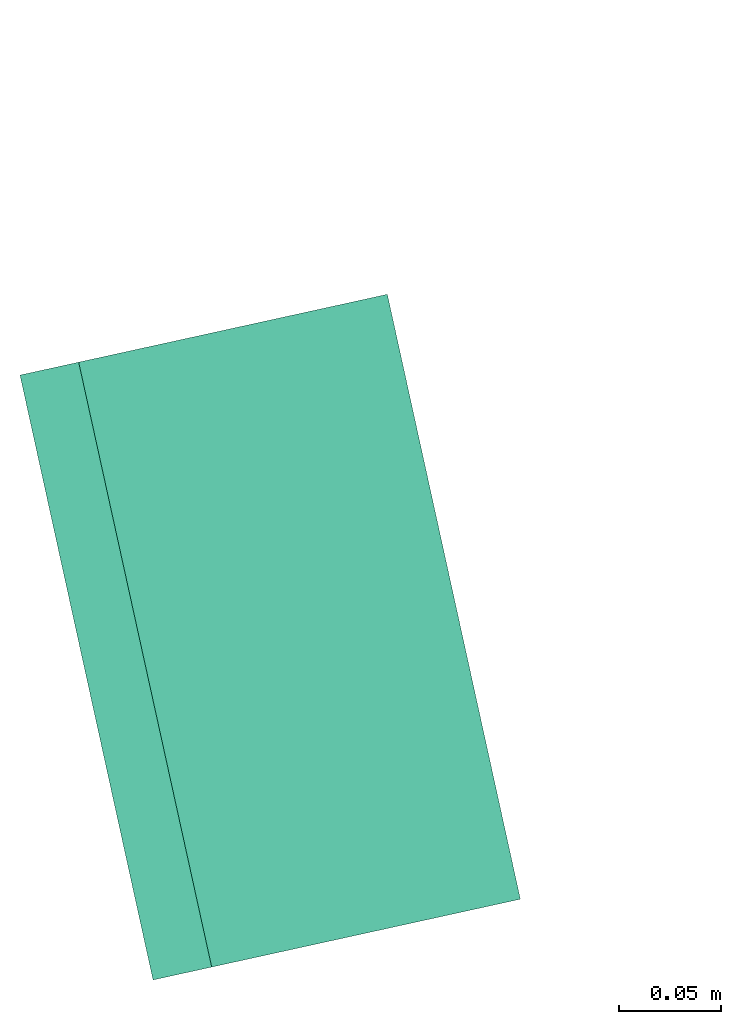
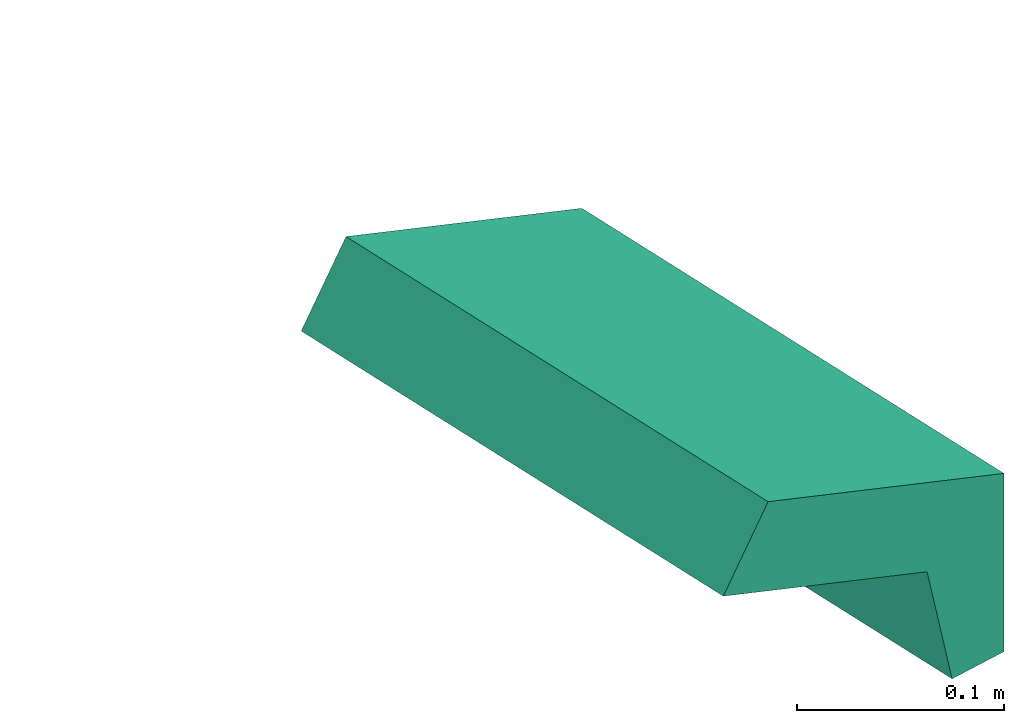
# One storey, part 1 of 2: 1 flow terminal.
"""IFC2X3 building model written with IfcOpenShell, lengths in millimetres."""

from ifc_helpers import new_model, entity, si_unit, converted_unit, derived_unit, direction, frame, origin, origin_with_axes, place, context, subcontext, project, spatial, open_shell, surface_model, source, transform, mapped, type_object, element, save


model = new_model("IFC2X3")

# Units and contexts
plan_context = context("Plan", 3, precision=1e-05, world=origin_with_axes())
model_context = context("Model", 3, precision=0.01, world=origin(), true_north=direction((6.12323399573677e-17, 1.0)))
body_context = subcontext(model_context, "Body", "Model", "MODEL_VIEW")
ifc_project = project(units=[converted_unit("PLANEANGLEUNIT", "DEGREE", entity("IfcPositiveLengthMeasure", 0.0174532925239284), si_unit("PLANEANGLEUNIT", "RADIAN"), dimensions=[0, 0, 0, 0, 0, 0, 0]), si_unit("AREAUNIT", "SQUARE_METRE"), si_unit("LENGTHUNIT", "METRE", prefix="MILLI"), si_unit("MASSUNIT", "GRAM", prefix="KILO"), si_unit("POWERUNIT", "WATT"), si_unit("PRESSUREUNIT", "PASCAL", prefix="KILO"), si_unit("FORCEUNIT", "NEWTON", prefix="KILO"), si_unit("ELECTRICVOLTAGEUNIT", "VOLT"), si_unit("ELECTRICCURRENTUNIT", "AMPERE"), si_unit("THERMODYNAMICTEMPERATUREUNIT", "DEGREE_CELSIUS"), si_unit("TIMEUNIT", "SECOND"), si_unit("VOLUMEUNIT", "CUBIC_METRE"), derived_unit("LINEARVELOCITYUNIT", [(si_unit("LENGTHUNIT", "METRE"), 1), (si_unit("TIMEUNIT", "SECOND"), -1)]), derived_unit("VOLUMETRICFLOWRATEUNIT", [(si_unit("VOLUMEUNIT", "CUBIC_METRE"), 1), (si_unit("TIMEUNIT", "SECOND"), -1)]), derived_unit("THERMALTRANSMITTANCEUNIT", [(si_unit("POWERUNIT", "WATT"), 1), (si_unit("THERMODYNAMICTEMPERATUREUNIT", "KELVIN"), -1), (si_unit("AREAUNIT", "SQUARE_METRE"), -1)]), derived_unit("SOUNDPRESSUREUNIT", [(si_unit("PRESSUREUNIT", "PASCAL"), 1)])], contexts=[model_context, plan_context])

# Site, building, storey
site_placement = place(None, frame((0.0, 0.0, 0.0), z_axis=(0.0, 0.0, 1.0), x_axis=(0.214788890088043, -0.97666050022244, 0.0)))
site = spatial("IfcSite", under=ifc_project, at=site_placement, CompositionType="ELEMENT")
building_placement = place(site_placement, origin_with_axes())
building = spatial("IfcBuilding", under=site, at=building_placement, Name="mc-building", CompositionType="ELEMENT")
storey_placement = place(building_placement, frame((0.0, 0.0, 5100.0), z_axis=(0.0, 0.0, 1.0), x_axis=(1.0, 0.0, 0.0)))
storey = spatial("IfcBuildingStorey", under=building, at=storey_placement, Name="Plan 01", CompositionType="ELEMENT", Elevation=5100.0)

# Flow terminal
light_fixture_type = type_object("IfcLightFixtureType", Name="Schneider Outdoor Wall IP65", PredefinedType="NOTDEFINED")
shared_shape = source(origin_with_axes(), body_context, "Body", "SurfaceModel", [
    surface_model("IfcShellBasedSurfaceModel", [(151.5, 184.0, 66.97873), (151.5, 154.61162, 108.94969), (151.5, 50.42326, 18.36078), (151.5, 0.0, 52.67566), (151.5, 0.0, -52.67566), (151.5, 34.02321, -52.67566), (-151.5, 0.0, -52.67566), (-151.5, 50.42326, 18.36078), (-151.5, 34.02321, -52.67566), (-151.5, 0.0, 52.67566), (-151.5, 154.61162, 108.94969), (-151.5, 184.0, 66.97873), (-99.03553, 7.0, -12.03553), (-95.5, 7.0, -13.5), (-96.79409, 7.0, -13.32963), (-98.0, 7.0, -12.83013), (-100.32963, 7.0, -9.79409), (-100.5, 7.0, -8.5), (-99.83013, 7.0, -11.0), (95.5, 7.0, 13.5), (95.5, 7.0, -13.5), (96.79409, 7.0, -13.32963), (99.83013, 7.0, -11.0), (98.0, 7.0, -12.83013), (99.03553, 7.0, -12.03553), (100.5, 7.0, -8.5), (100.32963, 7.0, -9.79409), (-95.5, 7.0, 13.5), (-100.5, 7.0, 8.5), (-100.32963, 7.0, 9.79409), (-98.0, 7.0, 12.83013), (-99.83013, 7.0, 11.0), (-96.79409, 7.0, 13.32963), (-99.03553, 7.0, 12.03553), (100.5, 7.0, 8.5), (99.83013, 7.0, 11.0), (100.32963, 7.0, 9.79409), (96.79409, 7.0, 13.32963), (98.0, 7.0, 12.83013), (99.03553, 7.0, 12.03553), (-100.32963, 5.0, 9.79409), (-95.5, 5.0, 13.5), (-96.79409, 5.0, 13.32963), (-98.0, 5.0, 12.83013), (-100.5, 5.0, 8.5), (-99.83013, 5.0, 11.0), (-99.03553, 5.0, 12.03553), (95.5, 5.0, 13.5), (95.5, 5.0, -13.5), (98.0, 5.0, 12.83013), (96.79409, 5.0, 13.32963), (99.03553, 5.0, 12.03553), (99.83013, 5.0, 11.0), (100.5, 5.0, 8.5), (100.32963, 5.0, 9.79409), (-100.5, 5.0, -8.5), (-100.32963, 5.0, -9.79409), (-99.83013, 5.0, -11.0), (-96.79409, 5.0, -13.32963), (-99.03553, 5.0, -12.03553), (-98.0, 5.0, -12.83013), (-95.5, 5.0, -13.5), (100.32963, 5.0, -9.79409), (99.83013, 5.0, -11.0), (100.5, 5.0, -8.5), (98.0, 5.0, -12.83013), (96.79409, 5.0, -13.32963), (99.03553, 5.0, -12.03553)], [open_shell([[[0, 1, 2]], [[2, 1, 3]], [[2, 4, 5]], [[4, 2, 3]], [[6, 7, 8]], [[7, 6, 9]], [[10, 11, 7]], [[10, 7, 9]], [[4, 3, 9]], [[9, 6, 4]], [[5, 4, 6]], [[6, 8, 5]], [[2, 5, 7]], [[8, 7, 5]], [[0, 2, 7]], [[7, 11, 0]], [[1, 0, 10]], [[11, 10, 0]], [[3, 1, 10]], [[10, 9, 3]], [[12, 13, 14]], [[12, 14, 15]], [[16, 17, 18]], [[18, 17, 13]], [[13, 12, 18]], [[19, 20, 13]], [[21, 22, 23]], [[22, 21, 20]], [[24, 23, 22]], [[25, 26, 22]], [[20, 25, 22]], [[25, 20, 19]], [[13, 17, 27]], [[27, 28, 29]], [[30, 29, 31]], [[32, 29, 30]], [[27, 29, 32]], [[30, 31, 33]], [[27, 19, 13]], [[34, 35, 36]], [[35, 34, 19]], [[19, 37, 38]], [[38, 39, 19]], [[19, 39, 35]], [[25, 19, 34]], [[17, 28, 27]], [[40, 41, 42]], [[40, 42, 43]], [[44, 41, 40]], [[45, 40, 43]], [[46, 45, 43]], [[47, 41, 48]], [[47, 49, 50]], [[49, 47, 51]], [[51, 47, 52]], [[53, 54, 52]], [[47, 53, 52]], [[53, 47, 48]], [[55, 41, 44]], [[55, 56, 57]], [[55, 57, 58]], [[59, 60, 58]], [[61, 55, 58]], [[58, 57, 59]], [[61, 48, 41]], [[62, 48, 63]], [[48, 62, 64]], [[65, 63, 66]], [[67, 63, 65]], [[66, 63, 48]], [[53, 48, 64]], [[41, 55, 61]], [[28, 17, 44]], [[55, 44, 17]], [[29, 44, 40]], [[31, 40, 45]], [[28, 44, 29]], [[31, 29, 40]], [[33, 31, 45]], [[45, 46, 33]], [[30, 46, 43]], [[32, 43, 42]], [[30, 43, 32]], [[27, 32, 42]], [[41, 27, 42]], [[46, 30, 33]], [[19, 27, 41]], [[41, 47, 19]], [[37, 47, 50]], [[38, 50, 49]], [[19, 47, 37]], [[38, 37, 50]], [[39, 38, 49]], [[49, 51, 39]], [[35, 51, 52]], [[36, 52, 54]], [[35, 52, 36]], [[34, 36, 54]], [[53, 34, 54]], [[51, 35, 39]], [[25, 34, 64]], [[53, 64, 34]], [[26, 64, 62]], [[22, 62, 63]], [[25, 64, 26]], [[22, 26, 62]], [[24, 22, 63]], [[63, 67, 24]], [[23, 67, 65]], [[21, 65, 66]], [[23, 65, 21]], [[20, 21, 66]], [[48, 20, 66]], [[67, 23, 24]], [[13, 20, 61]], [[48, 61, 20]], [[14, 61, 58]], [[15, 58, 60]], [[13, 61, 14]], [[15, 14, 58]], [[12, 15, 60]], [[60, 59, 12]], [[18, 59, 57]], [[16, 57, 56]], [[18, 57, 16]], [[17, 16, 56]], [[55, 17, 56]], [[59, 18, 12]]])]),
])
flow_terminal_placement = place(storey_placement, frame((-197178.26144, 380231.77449, 2960.0), z_axis=(0.0, 0.0, 1.0), x_axis=(-1.0, 0.0, 0.0)))
element("IfcFlowTerminal", 1, at=flow_terminal_placement, inside=storey, type_object=light_fixture_type, Name="Schneider Outdoor Wall IP65", context=body_context, shape_type="MappedRepresentation", body=[
    mapped(shared_shape, transform((0.0, 0.0, 0.0), scale=1.0)),
])

save(model, "model.ifc")
